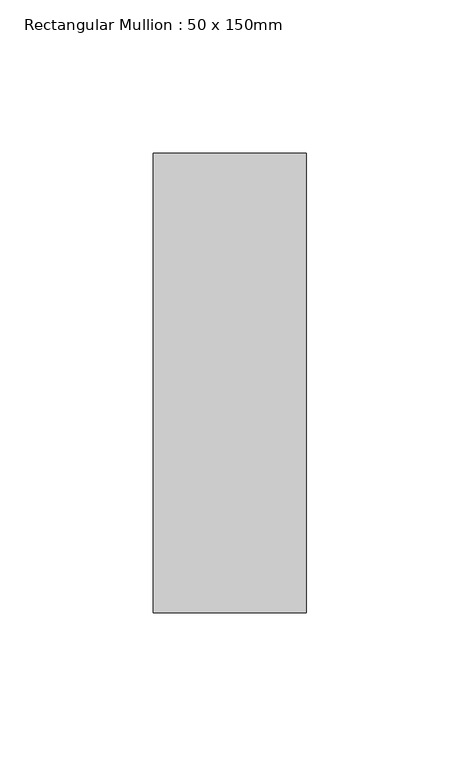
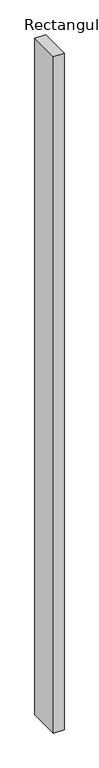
"""IFC4 building model written with IfcOpenShell, lengths in millimetres: member geometry, Rectangular Mullion : 50 x 150mm."""

from ifc_helpers import new_model, si_unit, frame, origin, place, context, project, spatial, polyline, outline, extrude, source, transform, mapped, element, save


def rectangular_mullion_50_x_150mm_24ac0887(model_context):
    return source(origin(), model_context, "Body", "SweptSolid", [
        extrude(outline(polyline([(0.0, 75.0), (0.0, -75.0), (-50.0, -75.0), (-50.0, 75.0), (0.0, 75.0)])), frame((0.0, 0.0, -3350.0), z_axis=(0.0, 0.0, 1.0), x_axis=(1.0, 0.0, 0.0)), (0.0, 0.0, 1.0), 3350.0),
    ])


if __name__ == "__main__":
    model = new_model("IFC4")
    model_context = context("Model", 3, world=origin())
    ifc_project = project(units=[si_unit("LENGTHUNIT", "METRE", prefix="MILLI")], contexts=[model_context])
    site = spatial("IfcSite", under=ifc_project)
    building = spatial("IfcBuilding", under=site)
    placement = place(None, origin())
    rectangular_mullion_50_x_150mm_shape = rectangular_mullion_50_x_150mm_24ac0887(model_context)
    element("IfcMember", 1, ObjectType="Rectangular Mullion : 50 x 150mm", at=placement, inside=building, context=model_context, shape_type="MappedRepresentation", body=[
        mapped(rectangular_mullion_50_x_150mm_shape, transform((0.0, 0.0, 0.0), x_axis=(1.0, 0.0, 0.0), y_axis=(0.0, 1.0, 0.0), z_axis=(0.0, 0.0, 1.0))),
    ])
    save(model, "model.ifc")
